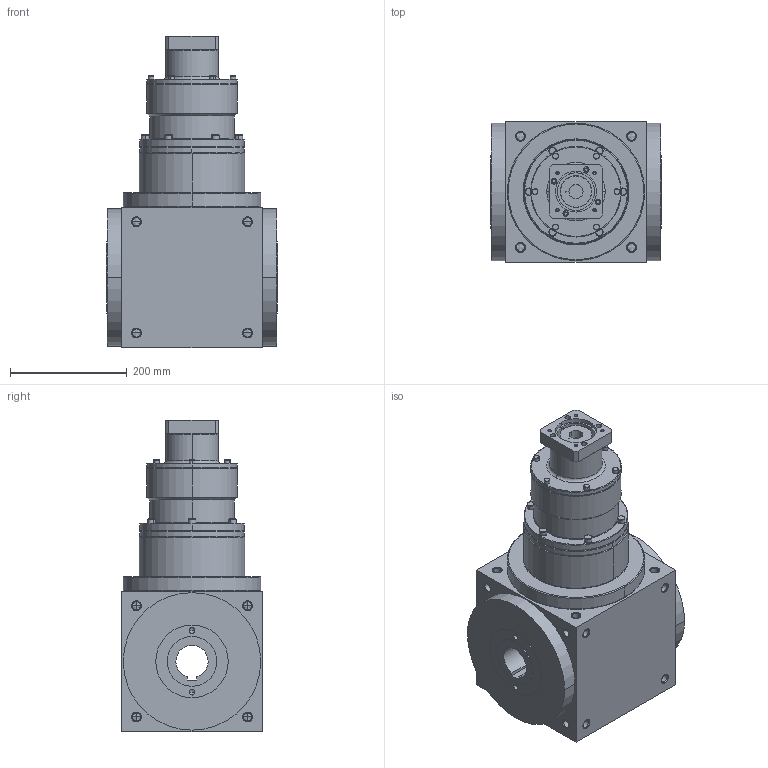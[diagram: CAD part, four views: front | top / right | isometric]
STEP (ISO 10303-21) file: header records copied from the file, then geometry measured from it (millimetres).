
FILE_DESCRIPTION((''),'2;1');
FILE_NAME('ATB240FH3-P0405300308_ASM','2023-04-19T',('Administrator'),(''),'PRO/ENGINEER BY PARAMETRIC TECHNOLOGY CORPORATION, 2015240','PRO/ENGINEER BY PARAMETRIC TECHNOLOGY CORPORATION, 2015240','');
FILE_SCHEMA(('CONFIG_CONTROL_DESIGN'));
Length unit declared in the file: millimetre
Products named in the file (8): P0903300001_D; P0227900001_D; P0226900002_D; P1801900001_D; ATH-HOUSING-9; ATB240FH3_ASM; P0405300308-0004; ATB240FH3-P0405300308_ASM
Assembly tree (7 placements, depth 3):
  ATB240FH3-P0405300308_ASM
    ATB240FH3_ASM
      P0903300001_D
      P0227900001_D
      P0226900002_D
      P1801900001_D
      ATH-HOUSING-9
    P0405300308-0004
Bounding box: 294 x 240 x 532 mm (x, y, z)
Volume: 17829751.8 mm3; surface area: 898930.6 mm2
Topology: 6 solids, 35 shells, 534 faces, 1344 edges, 807 vertices
Faces by surface type: cylinder 270, cone 152, plane 82, torus 28, bspline 2
Entity records: 16752 total; most frequent: CARTESIAN_POINT 3913, DIRECTION 2846, ORIENTED_EDGE 2432, EDGE_CURVE 1274, AXIS2_PLACEMENT_3D 1194, VERTEX_POINT 807, EDGE_LOOP 641, CIRCLE 636
